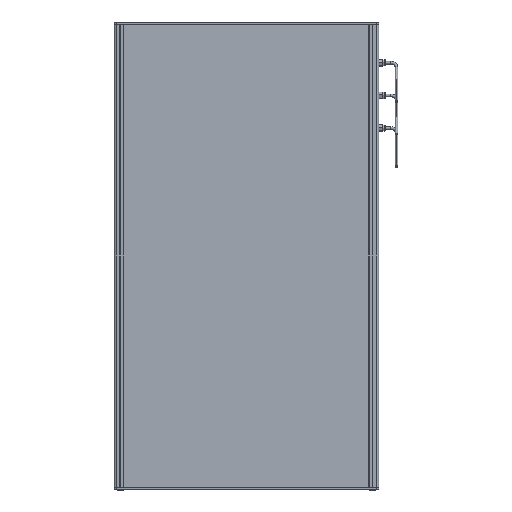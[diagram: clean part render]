
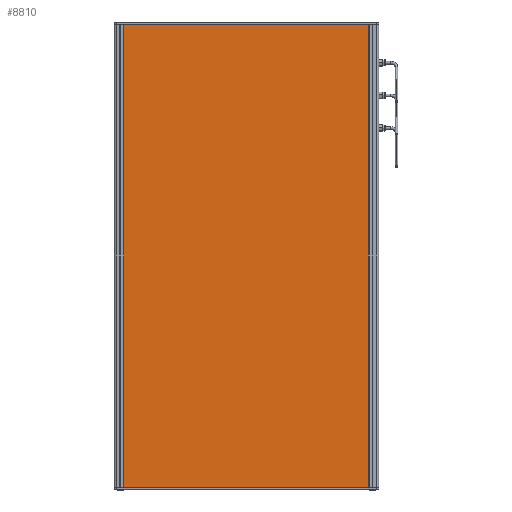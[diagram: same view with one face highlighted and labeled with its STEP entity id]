
A CAD part, front view. The second image highlights one B-rep face of the part: STEP entity #8810.
In plain terms, the highlighted planar face has unit normal (0, -1, 0) as drawn and (0, 0, 1) by its records, which use the part's own axes.
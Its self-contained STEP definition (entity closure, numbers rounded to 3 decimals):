
#981 = CARTESIAN_POINT ( 'NONE',  ( -9., 0., 0. ) ) ;
#1249 = DIRECTION ( 'NONE',  ( 0., 0., -1. ) ) ;
#1750 = EDGE_LOOP ( 'NONE', ( #9498, #3615, #3084, #10957 ) ) ;
#1923 = CARTESIAN_POINT ( 'NONE',  ( -459., 0., 0. ) ) ;
#2531 = DIRECTION ( 'NONE',  ( 0., 1., 0. ) ) ;
#2543 = FACE_OUTER_BOUND ( 'NONE', #1750, .T. ) ;
#2718 = CARTESIAN_POINT ( 'NONE',  ( -459., 0., 0. ) ) ;
#3084 = ORIENTED_EDGE ( 'NONE', *, *, #15378, .T. ) ;
#3099 = VERTEX_POINT ( 'NONE', #981 ) ;
#3615 = ORIENTED_EDGE ( 'NONE', *, *, #14341, .T. ) ;
#3843 = LINE ( 'NONE', #2718, #16372 ) ;
#3849 = CARTESIAN_POINT ( 'NONE',  ( -9., 0., 0. ) ) ;
#4871 = LINE ( 'NONE', #8838, #13279 ) ;
#6272 = CARTESIAN_POINT ( 'NONE',  ( -9., -850., 0. ) ) ;
#6418 = DIRECTION ( 'NONE',  ( 0., -1., 0. ) ) ;
#6467 = AXIS2_PLACEMENT_3D ( 'NONE', #7830, #1249, #12353 ) ;
#6952 = LINE ( 'NONE', #10917, #10546 ) ;
#7830 = CARTESIAN_POINT ( 'NONE',  ( 0., 0., 0. ) ) ;
#8333 = DIRECTION ( 'NONE',  ( -1., 0., 0. ) ) ;
#8593 = CARTESIAN_POINT ( 'NONE',  ( -459., -850., 0. ) ) ;
#8810 = ADVANCED_FACE ( 'NONE', ( #2543 ), #9187, .F. ) ;
#8838 = CARTESIAN_POINT ( 'NONE',  ( -9., -850., 0. ) ) ;
#9187 = PLANE ( 'NONE',  #6467 ) ;
#9498 = ORIENTED_EDGE ( 'NONE', *, *, #12827, .T. ) ;
#10249 = VECTOR ( 'NONE', #2531, 1000. ) ;
#10546 = VECTOR ( 'NONE', #8333, 1000. ) ;
#10917 = CARTESIAN_POINT ( 'NONE',  ( -9., 0., 0. ) ) ;
#10957 = ORIENTED_EDGE ( 'NONE', *, *, #13281, .T. ) ;
#12217 = VERTEX_POINT ( 'NONE', #1923 ) ;
#12353 = DIRECTION ( 'NONE',  ( -1., 0., 0. ) ) ;
#12827 = EDGE_CURVE ( 'NONE', #12920, #3099, #16827, .T. ) ;
#12920 = VERTEX_POINT ( 'NONE', #6272 ) ;
#13279 = VECTOR ( 'NONE', #15432, 1000. ) ;
#13281 = EDGE_CURVE ( 'NONE', #15259, #12920, #4871, .T. ) ;
#14341 = EDGE_CURVE ( 'NONE', #3099, #12217, #6952, .T. ) ;
#15259 = VERTEX_POINT ( 'NONE', #8593 ) ;
#15378 = EDGE_CURVE ( 'NONE', #12217, #15259, #3843, .T. ) ;
#15432 = DIRECTION ( 'NONE',  ( 1., 0., 0. ) ) ;
#16372 = VECTOR ( 'NONE', #6418, 1000. ) ;
#16827 = LINE ( 'NONE', #3849, #10249 ) ;
